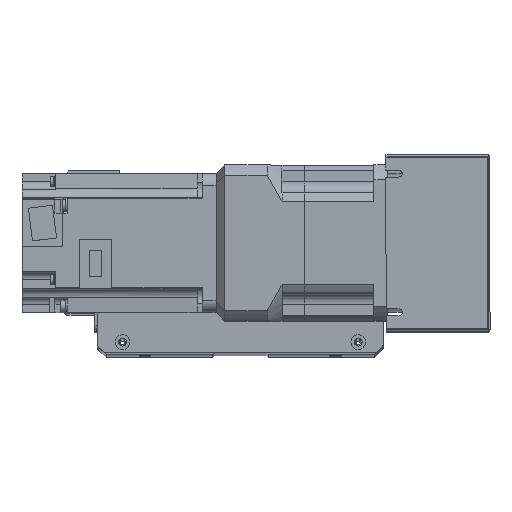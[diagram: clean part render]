
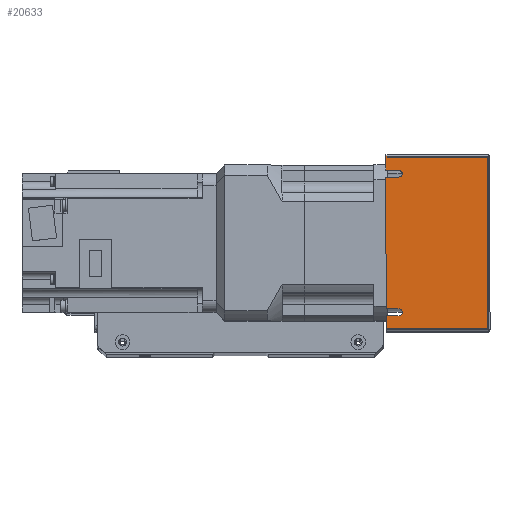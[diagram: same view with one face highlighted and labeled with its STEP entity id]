
A CAD part, top view. The second image highlights one B-rep face of the part: STEP entity #20633.
In plain terms, the highlighted planar face has unit normal (0, 0, 1) as drawn and (-1, 0, 0) by its records, which use the part's own axes.
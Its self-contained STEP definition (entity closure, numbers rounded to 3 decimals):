
#546=PLANE('',#22449);
#1634=LINE('',#32722,#3294);
#1640=LINE('',#32736,#3300);
#1652=LINE('',#32763,#3312);
#1662=LINE('',#32785,#3322);
#1670=LINE('',#32804,#3330);
#1671=LINE('',#32807,#3331);
#1672=LINE('',#32809,#3332);
#1673=LINE('',#32811,#3333);
#1674=LINE('',#32813,#3334);
#1675=LINE('',#32814,#3335);
#3294=VECTOR('',#26607,10.);
#3300=VECTOR('',#26617,10.);
#3312=VECTOR('',#26635,10.);
#3322=VECTOR('',#26649,10.);
#3330=VECTOR('',#26671,10.);
#3331=VECTOR('',#26674,10.);
#3332=VECTOR('',#26675,10.);
#3333=VECTOR('',#26676,10.);
#3334=VECTOR('',#26677,10.);
#3335=VECTOR('',#26678,10.);
#5316=FACE_OUTER_BOUND('',#6744,.T.);
#6744=EDGE_LOOP('',(#16056,#16057,#16058,#16059,#16060,#16061,#16062,#16063,
#16064,#16065,#16066,#16067));
#8170=CIRCLE('',#22445,2.);
#8173=CIRCLE('',#22450,2.);
#9595=VERTEX_POINT('',#32719);
#9596=VERTEX_POINT('',#32721);
#9601=VERTEX_POINT('',#32734);
#9602=VERTEX_POINT('',#32735);
#9613=VERTEX_POINT('',#32761);
#9614=VERTEX_POINT('',#32762);
#9623=VERTEX_POINT('',#32782);
#9624=VERTEX_POINT('',#32784);
#9629=VERTEX_POINT('',#32806);
#9630=VERTEX_POINT('',#32808);
#9631=VERTEX_POINT('',#32810);
#9632=VERTEX_POINT('',#32812);
#11935=EDGE_CURVE('',#9595,#9596,#1634,.T.);
#11941=EDGE_CURVE('',#9601,#9602,#1640,.T.);
#11953=EDGE_CURVE('',#9613,#9614,#1652,.T.);
#11963=EDGE_CURVE('',#9623,#9624,#1662,.T.);
#11966=EDGE_CURVE('',#9602,#9595,#8170,.T.);
#11975=EDGE_CURVE('',#9601,#9624,#1670,.T.);
#11976=EDGE_CURVE('',#9614,#9623,#8173,.T.);
#11977=EDGE_CURVE('',#9613,#9629,#1671,.T.);
#11978=EDGE_CURVE('',#9629,#9630,#1672,.T.);
#11979=EDGE_CURVE('',#9630,#9631,#1673,.T.);
#11980=EDGE_CURVE('',#9631,#9632,#1674,.T.);
#11981=EDGE_CURVE('',#9632,#9596,#1675,.T.);
#16056=ORIENTED_EDGE('',*,*,#11935,.F.);
#16057=ORIENTED_EDGE('',*,*,#11966,.F.);
#16058=ORIENTED_EDGE('',*,*,#11941,.F.);
#16059=ORIENTED_EDGE('',*,*,#11975,.T.);
#16060=ORIENTED_EDGE('',*,*,#11963,.F.);
#16061=ORIENTED_EDGE('',*,*,#11976,.F.);
#16062=ORIENTED_EDGE('',*,*,#11953,.F.);
#16063=ORIENTED_EDGE('',*,*,#11977,.T.);
#16064=ORIENTED_EDGE('',*,*,#11978,.T.);
#16065=ORIENTED_EDGE('',*,*,#11979,.T.);
#16066=ORIENTED_EDGE('',*,*,#11980,.T.);
#16067=ORIENTED_EDGE('',*,*,#11981,.T.);
#20633=ADVANCED_FACE('',(#5316),#546,.F.);
#22445=AXIS2_PLACEMENT_3D('',#32789,#26655,#26656);
#22449=AXIS2_PLACEMENT_3D('',#32803,#26669,#26670);
#22450=AXIS2_PLACEMENT_3D('',#32805,#26672,#26673);
#26607=DIRECTION('',(0.,0.,-1.));
#26617=DIRECTION('',(0.,0.,1.));
#26635=DIRECTION('',(0.,0.,1.));
#26649=DIRECTION('',(0.,0.,-1.));
#26655=DIRECTION('center_axis',(-1.,0.,0.));
#26656=DIRECTION('ref_axis',(0.,0.,1.));
#26669=DIRECTION('center_axis',(1.,0.,0.));
#26670=DIRECTION('ref_axis',(0.,-1.,0.));
#26671=DIRECTION('',(0.,-1.,0.));
#26672=DIRECTION('center_axis',(-1.,0.,0.));
#26673=DIRECTION('ref_axis',(0.,0.,1.));
#26674=DIRECTION('',(0.,-1.,0.));
#26675=DIRECTION('',(0.,0.,1.));
#26676=DIRECTION('',(0.,1.,0.));
#26677=DIRECTION('',(0.,0.,-1.));
#26678=DIRECTION('',(0.,-1.,0.));
#32719=CARTESIAN_POINT('',(-120.5,42.,-22.5));
#32721=CARTESIAN_POINT('',(-120.5,42.,-30.));
#32722=CARTESIAN_POINT('',(-120.5,42.,-16.304));
#32734=CARTESIAN_POINT('',(-120.5,38.,-30.));
#32735=CARTESIAN_POINT('',(-120.5,38.,-22.5));
#32736=CARTESIAN_POINT('',(-120.5,38.,-11.25));
#32761=CARTESIAN_POINT('',(-120.5,-42.,-30.));
#32762=CARTESIAN_POINT('',(-120.5,-42.,-22.5));
#32763=CARTESIAN_POINT('',(-120.5,-42.,-11.25));
#32782=CARTESIAN_POINT('',(-120.5,-38.,-22.5));
#32784=CARTESIAN_POINT('',(-120.5,-38.,-30.));
#32785=CARTESIAN_POINT('',(-120.5,-38.,-16.169));
#32789=CARTESIAN_POINT('Origin',(-120.5,40.,-22.5));
#32803=CARTESIAN_POINT('Origin',(-120.5,51.,0.));
#32804=CARTESIAN_POINT('',(-120.5,-51.,-30.));
#32805=CARTESIAN_POINT('Origin',(-120.5,-40.,-22.5));
#32806=CARTESIAN_POINT('',(-120.5,-50.,-30.));
#32807=CARTESIAN_POINT('',(-120.5,-51.,-30.));
#32808=CARTESIAN_POINT('',(-120.5,-50.,29.));
#32809=CARTESIAN_POINT('',(-120.5,-50.,0.));
#32810=CARTESIAN_POINT('',(-120.5,50.,29.));
#32811=CARTESIAN_POINT('',(-120.5,25.5,29.));
#32812=CARTESIAN_POINT('',(-120.5,50.,-30.));
#32813=CARTESIAN_POINT('',(-120.5,50.,0.));
#32814=CARTESIAN_POINT('',(-120.5,-51.,-30.));
